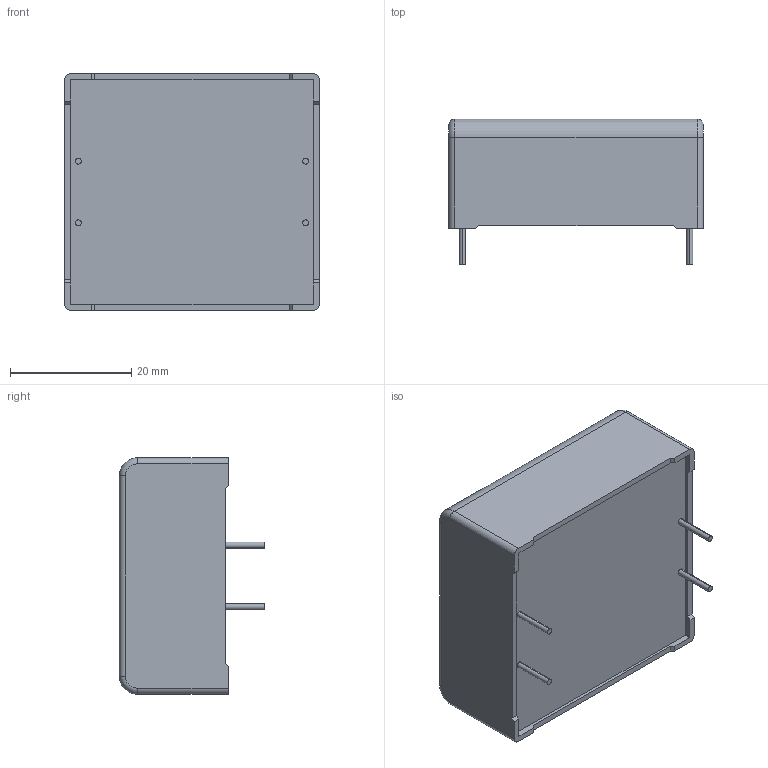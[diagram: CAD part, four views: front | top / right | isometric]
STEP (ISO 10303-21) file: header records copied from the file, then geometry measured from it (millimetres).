
FILE_DESCRIPTION (( 'STEP AP203' ), '1' );
FILE_NAME ('DC_Link_39x18x42_4pins10.2.step', '2017-04-03T16:00:17', ( 'work' ), ( 'Hewlett-Packard Company' ), 'SwSTEP 2.0', 'SolidWorks 2017', '' );
FILE_SCHEMA (( 'CONFIG_CONTROL_DESIGN' ));
Length unit declared in the file: millimetre
Products named in the file (1): DC_Link_39x18x42_4pins10.2
Bounding box: 42 x 24 x 39 mm (x, y, z)
Volume: 27770.9 mm3; surface area: 6132.2 mm2
Topology: 1 solids, 1 shells, 122 faces, 319 edges, 210 vertices
Faces by surface type: plane 82, cylinder 20, bspline 16, torus 4
Entity records: 4492 total; most frequent: CARTESIAN_POINT 1476, ORIENTED_EDGE 638, DIRECTION 545, EDGE_CURVE 319, VECTOR 243, LINE 243, VERTEX_POINT 210, AXIS2_PLACEMENT_3D 151
